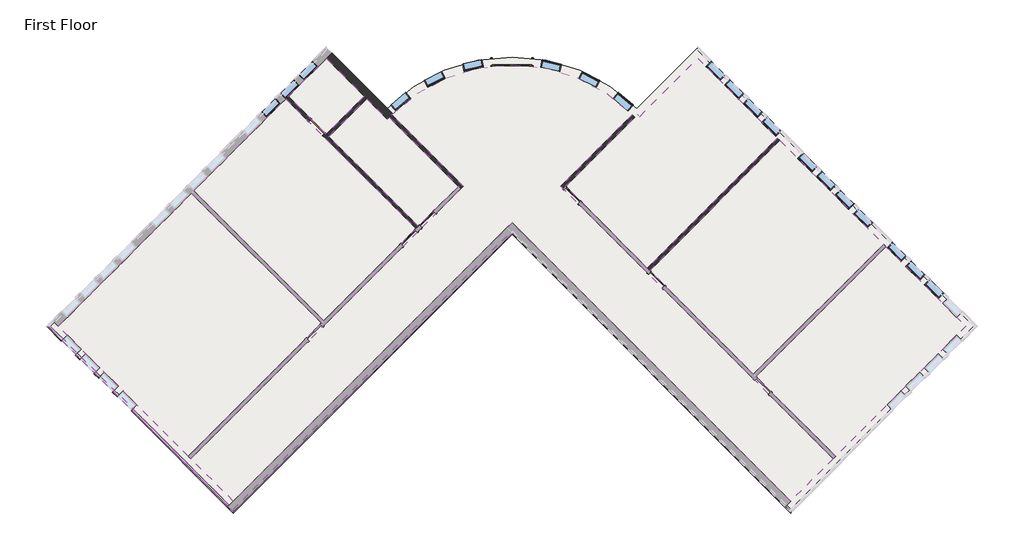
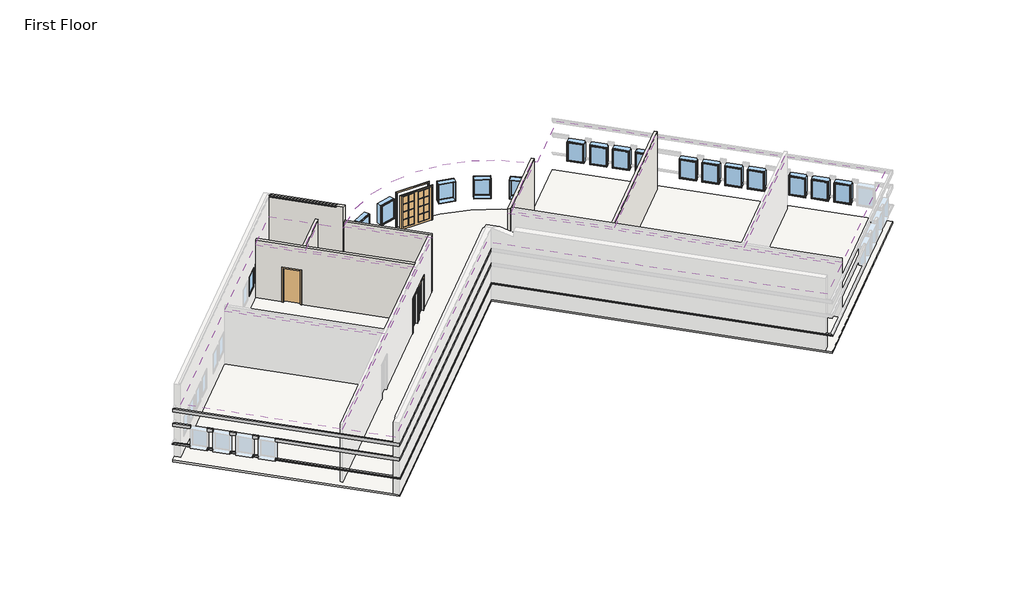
# One storey, part 2 of 3: 20 windows, 8 coverings, 7 proxies, 6 doors, 6 walls, 1 slab.
"""IFC4 building model written with IfcOpenShell, lengths in millimetres."""

from ifc_helpers import new_model, si_unit, point, frame, frame_2d, origin, origin_with_axes, place, context, project, spatial, polyline, circle_curve, ellipse_curve, trimmed, segment, composite_curve, outline, extrude, faceted_brep, transform, mapped, element, save
from ifc_brep_helpers import plane_surface, cylinder_surface, revolved_surface, advanced_brep
from components import door_0a477ef8, door_f9494b7c, door_b81abb0e, door_5f5b55da, window_15c49d37, window_0e2fc6ce

model = new_model("IFC4")

# Units and contexts
model_context = context("Model", 3, world=origin())
ifc_project = project(units=[si_unit("LENGTHUNIT", "METRE", prefix="MILLI")], contexts=[model_context])

# Site, building, storey
site = spatial("IfcSite", under=ifc_project)
building = spatial("IfcBuilding", under=site)
storey = spatial("IfcBuildingStorey", under=building, Name="First Floor", Elevation=0.0)

# Proxies
placement = place(None, origin())
element("IfcBuildingElementProxy", 1, Name="Wall Sweeps", at=placement, inside=storey, context=model_context, shape_type="Brep", body=[
    faceted_brep([(10063.54045, -9848.8216726, 1085.85), (10063.54045, -9979.0353863, 1085.85), (10063.54045, -10028.426795, 1041.4), (10063.54045, -10028.426795, 1016.0), (10063.54045, -9848.8216726, 1016.0), (-2868.0283643, 3082.7471418, 1085.85), (-2868.0283643, 3082.7471418, 1016.0), (-2868.0283643, 2903.1420194, 1016.0), (-2868.0283643, 2903.1420194, 1041.4), (-2868.0283643, 2952.533428, 1085.85)], [[[0, 1, 2, 3, 4]], [[5, 6, 7, 8, 9]], [[1, 0, 5, 9]], [[2, 1, 9, 8]], [[3, 2, 8, 7]], [[4, 3, 7, 6]], [[0, 4, 6, 5]]]),
])
element("IfcBuildingElementProxy", 2, Name="Wall Sweeps", at=placement, inside=storey, context=model_context, shape_type="Brep", body=[
    faceted_brep([(-2868.0283643, 3082.7471418, 1085.85), (-2868.0283643, 2952.533428, 1085.85), (-2868.0283643, 2903.1420194, 1041.4), (-2868.0283643, 2903.1420194, 1016.0), (-2868.0283643, 3082.7471418, 1016.0), (-15799.5971786, -9848.8216726, 1085.85), (-15799.5971786, -9848.8216726, 1016.0), (-15799.5971786, -10028.426795, 1016.0), (-15799.5971786, -10028.426795, 1041.4), (-15799.5971786, -9979.0353863, 1085.85)], [[[0, 1, 2, 3, 4]], [[5, 6, 7, 8, 9]], [[1, 0, 5, 9]], [[2, 1, 9, 8]], [[3, 2, 8, 7]], [[4, 3, 7, 6]], [[0, 4, 6, 5]]]),
])
element("IfcBuildingElementProxy", 3, Name="Wall Sweeps", at=placement, inside=storey, context=model_context, shape_type="SweptSolid", body=[
    extrude(outline(polyline([(-2868.0283643, 3082.7471418), (-2868.0283643, 2952.533428), (-15799.5971786, -9979.0353863), (-15799.5971786, -9848.8216726), (-2868.0283643, 3082.7471418)])), frame((0.0, 0.0, 2133.6), z_axis=(0.0, 0.0, 1.0), x_axis=(1.0, 0.0, 0.0)), (0.0, 0.0, 1.0), 203.2),
])
element("IfcBuildingElementProxy", 4, Name="Wall Sweeps", at=placement, inside=storey, context=model_context, shape_type="SweptSolid", body=[
    extrude(outline(polyline([(-2868.0283643, 3082.7471418), (-2868.0283643, 2952.533428), (-15799.5971786, -9979.0353863), (-15799.5971786, -9848.8216726), (-2868.0283643, 3082.7471418)])), frame((0.0, 0.0, 3048.0), z_axis=(0.0, 0.0, 1.0), x_axis=(1.0, 0.0, 0.0)), (0.0, 0.0, 1.0), 203.2),
])
element("IfcBuildingElementProxy", 5, Name="Wall Sweeps", at=placement, inside=storey, context=model_context, shape_type="Brep", body=[
    faceted_brep([(-15799.5971786, -9848.8216726, 1085.85), (-15799.5971786, -9979.0353863, 1085.85), (-15799.5971786, -10028.426795, 1041.4), (-15799.5971786, -10028.426795, 1016.0), (-15799.5971786, -9848.8216726, 1016.0), (-20459.2275735, -5189.1912777, 1085.85), (-20459.2275735, -5189.1912777, 1016.0), (-20524.3344303, -5254.2981346, 1016.0), (-20549.0301347, -5278.993839, 1016.0), (-20549.0301347, -5278.993839, 1041.4), (-20524.3344303, -5254.2981346, 1085.85)], [[[0, 1, 2, 3, 4]], [[5, 6, 7, 8, 9, 10]], [[1, 0, 5, 10]], [[2, 1, 10, 9]], [[3, 2, 9, 8]], [[4, 3, 8, 7, 6]], [[0, 4, 6, 5]]]),
    faceted_brep([(-21105.8060142, -4542.612837, 1085.85), (-21170.9128711, -4607.7196939, 1085.85), (-21195.6085754, -4632.4153982, 1041.4), (-21195.6085754, -4632.4153982, 1016.0), (-21170.9128711, -4607.7196939, 1016.0), (-21105.8060142, -4542.612837, 1016.0), (-21321.3321611, -4327.0866901, 1085.85), (-21321.3321611, -4327.0866901, 1016.0), (-21386.439018, -4392.193547, 1016.0), (-21411.1347223, -4416.8892513, 1016.0), (-21411.1347223, -4416.8892513, 1041.4), (-21386.439018, -4392.193547, 1085.85)], [[[0, 1, 2, 3, 4, 5]], [[6, 7, 8, 9, 10, 11]], [[1, 0, 6, 11]], [[2, 1, 11, 10]], [[3, 2, 10, 9]], [[5, 4, 3, 9, 8, 7]], [[0, 5, 7, 6]]]),
    faceted_brep([(-21967.9106018, -3680.5082494, 1085.85), (-22033.0174587, -3745.6151063, 1085.85), (-22057.713163, -3770.3108106, 1041.4), (-22057.713163, -3770.3108106, 1016.0), (-22033.0174587, -3745.6151063, 1016.0), (-21967.9106018, -3680.5082494, 1016.0), (-22183.4367487, -3464.9821025, 1085.85), (-22183.4367487, -3464.9821025, 1016.0), (-22248.5436056, -3530.0889594, 1016.0), (-22273.2393099, -3554.7846637, 1016.0), (-22273.2393099, -3554.7846637, 1041.4), (-22248.5436056, -3530.0889594, 1085.85)], [[[0, 1, 2, 3, 4, 5]], [[6, 7, 8, 9, 10, 11]], [[1, 0, 6, 11]], [[2, 1, 11, 10]], [[3, 2, 10, 9]], [[5, 4, 3, 9, 8, 7]], [[0, 5, 7, 6]]]),
    faceted_brep([(-22830.0151894, -2818.4036618, 1085.85), (-22895.1220463, -2883.5105187, 1085.85), (-22919.8177506, -2908.206223, 1041.4), (-22919.8177506, -2908.206223, 1016.0), (-22895.1220463, -2883.5105187, 1016.0), (-22830.0151894, -2818.4036618, 1016.0), (-23045.5413363, -2602.8775149, 1085.85), (-23045.5413363, -2602.8775149, 1016.0), (-23110.6481932, -2667.9843718, 1016.0), (-23135.3438975, -2692.6800761, 1016.0), (-23135.3438975, -2692.6800761, 1041.4), (-23110.6481932, -2667.9843718, 1085.85)], [[[0, 1, 2, 3, 4, 5]], [[6, 7, 8, 9, 10, 11]], [[1, 0, 6, 11]], [[2, 1, 11, 10]], [[3, 2, 10, 9]], [[5, 4, 3, 9, 8, 7]], [[0, 5, 7, 6]]]),
    faceted_brep([(-23692.119777, -1956.2990742, 1085.85), (-23757.2266339, -2021.405931, 1085.85), (-23781.9223383, -2046.1016354, 1041.4), (-23781.9223383, -2046.1016354, 1016.0), (-23757.2266339, -2021.405931, 1016.0), (-23692.119777, -1956.2990742, 1016.0), (-24290.4293411, -1357.9895101, 1085.85), (-24290.4293411, -1357.9895101, 1016.0), (-24470.0344635, -1357.9895101, 1016.0), (-24470.0344635, -1357.9895101, 1041.4), (-24420.6430549, -1357.9895101, 1085.85)], [[[0, 1, 2, 3, 4, 5]], [[6, 7, 8, 9, 10]], [[1, 0, 6, 10]], [[2, 1, 10, 9]], [[3, 2, 9, 8]], [[5, 4, 3, 8, 7]], [[0, 5, 7, 6]]]),
])
element("IfcBuildingElementProxy", 6, Name="Wall Sweeps", at=placement, inside=storey, context=model_context, shape_type="Brep", body=[
    faceted_brep([(-15799.5971786, -9979.0353863, 2336.8), (-15799.5971786, -9979.0353863, 2133.6), (-15799.5971786, -9848.8216726, 2133.6), (-15799.5971786, -9848.8216726, 2336.8), (-20524.3344303, -5254.2981346, 2336.8), (-20459.2275735, -5189.1912777, 2336.8), (-20459.2275735, -5189.1912777, 2133.6), (-20524.3344303, -5254.2981346, 2133.6), (-16048.799286, -9729.833279, 2336.8), (-16048.799286, -9729.833279, 2133.6)], [[[0, 1, 2, 3]], [[4, 5, 6, 7]], [[1, 0, 8, 4, 7, 9]], [[2, 1, 9, 7, 6]], [[3, 2, 6, 5]], [[0, 3, 5, 4, 8]]]),
    faceted_brep([(-21170.9128711, -4607.7196939, 2336.8), (-21170.9128711, -4607.7196939, 2133.6), (-21105.8060142, -4542.612837, 2133.6), (-21105.8060142, -4542.612837, 2336.8), (-21386.439018, -4392.193547, 2336.8), (-21321.3321611, -4327.0866901, 2336.8), (-21321.3321611, -4327.0866901, 2133.6), (-21386.439018, -4392.193547, 2133.6)], [[[0, 1, 2, 3]], [[4, 5, 6, 7]], [[1, 0, 4, 7]], [[2, 1, 7, 6]], [[3, 2, 6, 5]], [[0, 3, 5, 4]]]),
    faceted_brep([(-22033.0174587, -3745.6151063, 2336.8), (-22033.0174587, -3745.6151063, 2133.6), (-21967.9106018, -3680.5082494, 2133.6), (-21967.9106018, -3680.5082494, 2336.8), (-22248.5436056, -3530.0889594, 2336.8), (-22183.4367487, -3464.9821025, 2336.8), (-22183.4367487, -3464.9821025, 2133.6), (-22248.5436056, -3530.0889594, 2133.6)], [[[0, 1, 2, 3]], [[4, 5, 6, 7]], [[1, 0, 4, 7]], [[2, 1, 7, 6]], [[3, 2, 6, 5]], [[0, 3, 5, 4]]]),
    faceted_brep([(-22895.1220463, -2883.5105187, 2336.8), (-22895.1220463, -2883.5105187, 2133.6), (-22830.0151894, -2818.4036618, 2133.6), (-22830.0151894, -2818.4036618, 2336.8), (-23110.6481932, -2667.9843718, 2336.8), (-23045.5413363, -2602.8775149, 2336.8), (-23045.5413363, -2602.8775149, 2133.6), (-23110.6481932, -2667.9843718, 2133.6)], [[[0, 1, 2, 3]], [[4, 5, 6, 7]], [[1, 0, 4, 7]], [[2, 1, 7, 6]], [[3, 2, 6, 5]], [[0, 3, 5, 4]]]),
    faceted_brep([(-23757.2266339, -2021.405931, 2336.8), (-23757.2266339, -2021.405931, 2133.6), (-23692.119777, -1956.2990742, 2133.6), (-23692.119777, -1956.2990742, 2336.8), (-24420.6430549, -1357.9895101, 2336.8), (-24290.4293411, -1357.9895101, 2336.8), (-24290.4293411, -1357.9895101, 2133.6), (-24420.6430549, -1357.9895101, 2133.6)], [[[0, 1, 2, 3]], [[4, 5, 6, 7]], [[1, 0, 4, 7]], [[2, 1, 7, 6]], [[3, 2, 6, 5]], [[0, 3, 5, 4]]]),
])
element("IfcBuildingElementProxy", 7, Name="Wall Sweeps", at=placement, inside=storey, context=model_context, shape_type="Brep", body=[
    faceted_brep([(-15799.5971786, -9979.0353863, 3251.2), (-15799.5971786, -9979.0353863, 3048.0), (-15799.5971786, -9848.8216726, 3048.0), (-15799.5971786, -9848.8216726, 3251.2), (-24420.6430549, -1357.9895101, 3251.2), (-24290.4293411, -1357.9895101, 3251.2), (-24290.4293411, -1357.9895101, 3048.0), (-24420.6430549, -1357.9895101, 3048.0), (-16048.799286, -9729.833279, 3251.2), (-16048.799286, -9729.833279, 3048.0)], [[[0, 1, 2, 3]], [[4, 5, 6, 7]], [[1, 0, 8, 4, 7, 9]], [[2, 1, 9, 7, 6]], [[3, 2, 6, 5]], [[0, 3, 5, 4, 8]]]),
])

# Coverings
element("IfcCovering", 8, ObjectType="2' x 2' ACT System", at=placement, inside=storey, context=model_context, shape_type="SweptSolid", body=[
    extrude(outline(polyline([(-11706.7276692, -1216.4326939), (-17885.2616628, -7394.9666875), (-23922.2388402, -1357.9895101), (-17743.7048466, 4820.5444835), (-11706.7276692, -1216.4326939)])), frame((0.0, 0.0, 3352.8), z_axis=(0.0, 0.0, 1.0), x_axis=(1.0, 0.0, 0.0)), (0.0, 0.0, 1.0), 57.15),
])
element("IfcCovering", 9, ObjectType="2' x 2' ACT System", at=placement, inside=storey, context=model_context, shape_type="SweptSolid", body=[
    extrude(outline(polyline([(-17633.6967091, 4930.552621), (-13359.2125777, 9205.0367523), (-7322.2354004, 3168.0595749), (-11596.7195317, -1106.4245564), (-17633.6967091, 4930.552621)])), frame((0.0, 0.0, 3352.8), z_axis=(0.0, 0.0, 1.0), x_axis=(1.0, 0.0, 0.0)), (0.0, 0.0, 1.0), 57.15),
])
element("IfcCovering", 10, ObjectType="2' x 2' ACT System", at=placement, inside=storey, context=model_context, shape_type="SweptSolid", body=[
    extrude(outline(polyline([(-13249.2044403, 9315.0448898), (-11489.0742405, 11075.1750895), (-9728.9440408, 9315.0448898), (-11489.0742405, 7554.9146901), (-13249.2044403, 9315.0448898)])), frame((0.0, 0.0, 3352.8), z_axis=(0.0, 0.0, 1.0), x_axis=(1.0, 0.0, 0.0)), (0.0, 0.0, 1.0), 57.15),
])
element("IfcCovering", 11, ObjectType="2' x 2' ACT System", at=placement, inside=storey, context=model_context, shape_type="SweptSolid", body=[
    extrude(outline(composite_curve([segment(polyline([(-11379.066103, 7444.9065526), (-9618.9359033, 9205.0367523), (-8658.0122729, 8244.1131219)]), True, "CONTINUOUS"), segment(trimmed(circle_curve(frame_2d((-2868.0283643, 2903.1420194)), 7877.175), [point((-8658.0122729, 8244.1131219))], [point((-8557.7157352, 8350.8336041))], False, "CARTESIAN"), True, "CONTINUOUS"), segment(polyline([(-8557.7157352, 8350.8336041), (-5348.5885532, 5141.7064221), (-7212.2272629, 3278.0677124), (-11379.066103, 7444.9065526)]), True, "CONTINUOUS")], self_intersect=False)), frame((0.0, 0.0, 3352.8), z_axis=(0.0, 0.0, 1.0), x_axis=(1.0, 0.0, 0.0)), (0.0, 0.0, 1.0), 57.15),
])
element("IfcCovering", 12, ObjectType="2' x 2' ACT System", at=placement, inside=storey, context=model_context, shape_type="SweptSolid", body=[
    extrude(outline(composite_curve([segment(polyline([(-607.4844504, 5141.7064221), (12039.1967967, -7504.974825), (10063.54045, -9480.6311716), (-2868.0283643, 3450.9376427), (-15799.5971786, -9480.6311716), (-17775.2535253, -7504.974825), (-5128.5722782, 5141.7064221), (-8449.0111375, 8462.1452813)]), True, "CONTINUOUS"), segment(trimmed(circle_curve(frame_2d((-2868.0283643, 2903.1420194)), 7877.175), [point((-8449.0111375, 8462.1452813))], [point((2712.9544089, 8462.1452813))], False, "CARTESIAN"), True, "CONTINUOUS"), segment(polyline([(2712.9544089, 8462.1452813), (-607.4844504, 5141.7064221)]), True, "CONTINUOUS")], self_intersect=False)), frame((0.0, 0.0, 3352.8), z_axis=(0.0, 0.0, 1.0), x_axis=(1.0, 0.0, 0.0)), (0.0, 0.0, 1.0), 57.15),
])
element("IfcCovering", 13, ObjectType="2' x 2' ACT System", at=placement, inside=storey, context=model_context, shape_type="SweptSolid", body=[
    extrude(outline(polyline([(2947.192033, 8476.3666305), (3050.2065213, 8372.3640989), (5753.0175119, 11075.1750895), (9452.8830338, 7375.3095676), (3415.9058564, 1338.3323903), (-387.4681754, 5141.7064221), (2947.192033, 8476.3666305)])), frame((0.0, 0.0, 3352.8), z_axis=(0.0, 0.0, 1.0), x_axis=(1.0, 0.0, 0.0)), (0.0, 0.0, 1.0), 57.15),
])
element("IfcCovering", 14, ObjectType="2' x 2' ACT System", at=placement, inside=storey, context=model_context, shape_type="SweptSolid", body=[
    extrude(outline(polyline([(3525.9139939, 1228.3242528), (9562.8911713, 7265.3014302), (14376.3084522, 2451.8841493), (8339.3312748, -3585.0930281), (3525.9139939, 1228.3242528)])), frame((0.0, 0.0, 3352.8), z_axis=(0.0, 0.0, 1.0), x_axis=(1.0, 0.0, 0.0)), (0.0, 0.0, 1.0), 57.15),
])
element("IfcCovering", 15, ObjectType="2' x 2' ACT System", at=placement, inside=storey, context=model_context, shape_type="SweptSolid", body=[
    extrude(outline(polyline([(8449.3394123, -3695.1011656), (14486.3165897, 2341.8760118), (18186.1821115, -1357.9895101), (12149.2049342, -7394.9666875), (8449.3394123, -3695.1011656)])), frame((0.0, 0.0, 3352.8), z_axis=(0.0, 0.0, 1.0), x_axis=(1.0, 0.0, 0.0)), (0.0, 0.0, 1.0), 57.15),
])

# Doors
door_shape = door_0a477ef8(model_context)
element("IfcDoor", 16, ObjectType="Double-Glass 2 : 72\" x 84\"", at=placement, inside=storey, context=model_context, shape_type="MappedRepresentation", body=[
    mapped(door_shape, transform((-2868.7603243, 10905.5717204, 0.0), x_axis=(-0.9999999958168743, -9.146721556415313e-05, 0.0), y_axis=(9.146721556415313e-05, -0.9999999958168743, 0.0), z_axis=(0.0, 0.0, 1.0))),
])
door_2_shape = door_f9494b7c(model_context)
element("IfcDoor", 17, ObjectType="Single-Flush : 36\" x 84\"", at=placement, inside=storey, context=model_context, shape_type="MappedRepresentation", body=[
    mapped(door_2_shape, transform((-11920.1265343, 7875.9588464, 0.0), x_axis=(0.7071067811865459, -0.7071067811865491, 0.0), y_axis=(0.7071067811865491, 0.7071067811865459, 0.0), z_axis=(0.0, 0.0, 1.0))),
])
door_3_shape = door_b81abb0e(model_context)
element("IfcDoor", 18, ObjectType="Single-Glass 1 : 36\" x 84\"", at=placement, inside=storey, context=model_context, shape_type="MappedRepresentation", body=[
    mapped(door_3_shape, transform((-7643.2795567, 2737.0072811, 0.0), x_axis=(0.7071067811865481, 0.7071067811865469, 0.0), y_axis=(-0.7071067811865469, 0.7071067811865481, 0.0), z_axis=(0.0, 0.0, 1.0))),
])
door_4_shape = door_5f5b55da(model_context)
element("IfcDoor", 19, ObjectType="Single-Glass 1 : 36\" x 84\"", at=placement, inside=storey, context=model_context, shape_type="MappedRepresentation", body=[
    mapped(door_4_shape, transform((-6781.1749691, 3599.1118687, 0.0), x_axis=(-0.7071067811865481, -0.7071067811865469, 0.0), y_axis=(0.7071067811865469, -0.7071067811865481, 0.0), z_axis=(0.0, 0.0, 1.0))),
])
element("IfcDoor", 20, ObjectType="Single-Glass 1 : 36\" x 84\"", at=placement, inside=storey, context=model_context, shape_type="MappedRepresentation", body=[
    mapped(door_4_shape, transform((-66.4240191, 4710.6541283, 0.0), x_axis=(-0.7071067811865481, 0.7071067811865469, 0.0), y_axis=(-0.7071067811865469, -0.7071067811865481, 0.0), z_axis=(0.0, 0.0, 1.0))),
])
element("IfcDoor", 21, ObjectType="Single-Glass 1 : 36\" x 84\"", at=placement, inside=storey, context=model_context, shape_type="MappedRepresentation", body=[
    mapped(door_4_shape, transform((3846.9581502, 797.271959, 0.0), x_axis=(-0.7071067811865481, 0.7071067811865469, 0.0), y_axis=(-0.7071067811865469, -0.7071067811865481, 0.0), z_axis=(0.0, 0.0, 1.0))),
])

# Slab
element("IfcSlab", 22, ObjectType="4\" Concrete Slab", at=placement, inside=storey, context=model_context, shape_type="SweptSolid", body=[
    extrude(outline(composite_curve([segment(polyline([(2926.4294954, 8746.9912878), (5753.0175119, 11573.5793042), (18684.5863263, -1357.9895101), (10063.54045, -9979.0353863), (-2868.0283643, 2952.533428), (-15799.5971786, -9979.0353863), (-24420.6430549, -1357.9895101), (-11489.0742405, 11573.5793042), (-8662.486224, 8746.9912878)]), True, "CONTINUOUS"), segment(trimmed(circle_curve(frame_2d((-2868.0283643, 2903.1420194)), 8229.6), [point((-8662.486224, 8746.9912878))], [point((2926.4294954, 8746.9912878))], False, "CARTESIAN"), True, "CONTINUOUS")], self_intersect=False)), frame((0.0, 0.0, -101.6), z_axis=(0.0, 0.0, 1.0), x_axis=(1.0, 0.0, 0.0)), (0.0, 0.0, 1.0), 101.6),
])

# Walls
element("IfcWall", 23, ObjectType="Exterior - Split Face and CMU on Mtl. Stud", at=placement, inside=storey, context=model_context, shape_type="AdvancedBrep", body=[
    advanced_brep(
    [(-11489.0742405, 11075.1750895, 0.0), (-9728.9440408, 9315.0448898, 0.0), (-9618.9359033, 9205.0367523, 0.0), (-8658.0122729, 8244.1131219, 0.0), (-8658.0122729, 8244.1131219, 4689.475), (-11489.0742405, 11075.1750895, 4689.475), (-11489.0742405, 11075.1750895, 4639.3965909), (-8911.6883314, 8497.7891804, 4639.3965909), (-8911.6883314, 8497.7891804, 4572.0), (-11489.0742405, 11075.1750895, 4572.0), (-8413.2817722, 8497.7868359, 4572.0), (-8413.2817722, 8497.7868359, 0.0), (-8662.486224, 8746.9912878, 0.0), (-11239.8721332, 11324.3771969, 0.0), (-11239.8721332, 11324.3771969, 1016.0), (-8662.486224, 8746.9912878, 1016.0), (-8597.3787742, 8681.8838379, 1016.0), (-8597.3787742, 8681.8838379, 1085.85), (-8662.486224, 8746.9912878, 1085.85), (-11239.8721332, 11324.3771969, 1085.85), (-11239.8721332, 11324.3771969, 2133.6), (-8662.486224, 8746.9912878, 2133.6), (-8597.3787742, 8681.8838379, 2133.6), (-8597.3787742, 8681.8838379, 2336.8), (-8662.486224, 8746.9912878, 2336.8), (-11239.8721332, 11324.3771969, 2336.8), (-11239.8721332, 11324.3771969, 3048.0), (-8662.486224, 8746.9912878, 3048.0), (-8597.3787742, 8681.8838379, 3048.0), (-8597.3787742, 8681.8838379, 3251.2), (-8662.486224, 8746.9912878, 3251.2), (-11239.8721332, 11324.3771969, 3251.2), (-11239.8721332, 11324.3771969, 4572.0), (-8662.486224, 8746.9912878, 4572.0), (-8478.2967797, 8432.5881297, 0.0), (-11304.9789901, 11259.27034, 0.0), (-11304.9789901, 11259.27034, 3251.2), (-11304.9789901, 11259.27034, 3048.0), (-11304.9789901, 11259.27034, 2336.8), (-11304.9789901, 11259.27034, 2133.6), (-11304.9789901, 11259.27034, 1085.85), (-11304.9789901, 11259.27034, 1016.0), (-11413.683542, 11150.5657881, 4653.9354839), (-8836.2976328, 8573.179879, 4653.9354839), (-8662.3967205, 8616.6880705, 1085.85), (-8662.3967205, 8616.6880705, 1016.0), (-8662.3967205, 8616.6880705, 2336.8), (-8662.3967205, 8616.6880705, 2133.6), (-8662.3967205, 8616.6880705, 3251.2), (-8662.3967205, 8616.6880705, 3048.0)],
    [
        (0, 1),
        (1, 2),
        (2, 3),
        (3, 4),
        (4, 5),
        (5, 6),
        (6, 7),
        (7, 8),
        (8, 9),
        (9, 0),
        (10, 11),
        (11, 12),
        (12, 13),
        (13, 14),
        (14, 15),
        (15, 16),
        (16, 17),
        (17, 18),
        (18, 19),
        (19, 20),
        (20, 21),
        (21, 22),
        (22, 23),
        (23, 24),
        (24, 25),
        (25, 26),
        (26, 27),
        (27, 28),
        (28, 29),
        (29, 30),
        (30, 31),
        (31, 32),
        (32, 33),
        (33, 10),
        (3, 34, circle_curve(frame((-2868.0283643, 2903.1420194, 0.0), z_axis=(0.0, 0.0, -1.0), x_axis=(1.0, 0.0, 0.0)), 7877.175)),
        (34, 11, circle_curve(frame((-2868.0283643, 2903.1420194, 0.0), z_axis=(0.0, 0.0, -1.0), x_axis=(1.0, 0.0, 0.0)), 7877.175)),
        (10, 4, ellipse_curve(frame((-2868.0283643, 2903.1420194, 4583.6416667), z_axis=(0.2236067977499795, 0.22360679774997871, 0.9486832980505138), x_axis=(0.6708203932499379, 0.6708203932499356, -0.31622776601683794)), 8303.2715092, 7877.175)),
        (35, 0),
        (9, 32),
        (31, 36),
        (36, 37),
        (37, 26),
        (25, 38),
        (38, 39),
        (39, 20),
        (19, 40),
        (40, 41),
        (41, 14),
        (13, 35),
        (5, 42),
        (42, 6),
        (33, 43),
        (43, 42),
        (35, 34),
        (44, 45),
        (45, 41),
        (40, 44),
        (17, 44, circle_curve(frame((-2868.0283643, 2903.1420194, 1085.85), z_axis=(0.0, 0.0, 1.0), x_axis=(-0.7040995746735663, 0.7101012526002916, 0.0)), 8137.525)),
        (45, 16, circle_curve(frame((-2868.0283643, 2903.1420194, 1016.0), z_axis=(0.0, 0.0, -1.0), x_axis=(-0.7040995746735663, 0.7101012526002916, 0.0)), 8137.525)),
        (46, 47),
        (47, 39),
        (38, 46),
        (47, 22, circle_curve(frame((-2868.0283643, 2903.1420194, 2133.6), z_axis=(0.0, 0.0, -1.0), x_axis=(-0.7120553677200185, 0.70212331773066, 0.0)), 8137.525)),
        (46, 23, circle_curve(frame((-2868.0283643, 2903.1420194, 2336.8), z_axis=(0.0, 0.0, -1.0), x_axis=(-0.7120553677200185, 0.70212331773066, 0.0)), 8137.525)),
        (48, 49),
        (49, 37),
        (36, 48),
        (49, 28, circle_curve(frame((-2868.0283643, 2903.1420194, 3048.0), z_axis=(0.0, 0.0, -1.0), x_axis=(-0.7120553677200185, 0.70212331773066, 0.0)), 8137.525)),
        (48, 29, circle_curve(frame((-2868.0283643, 2903.1420194, 3251.2), z_axis=(0.0, 0.0, -1.0), x_axis=(-0.7120553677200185, 0.70212331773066, 0.0)), 8137.525)),
        (8, 33),
        (7, 43),
    ],
    [
        plane_surface(frame((-11738.2763479, 11324.3771969, 0.0), z_axis=(-0.7071067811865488, -0.7071067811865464, 0.0), x_axis=(0.7071067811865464, -0.7071067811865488, 0.0))),
        plane_surface(frame((-11489.0742405, 11573.5793042, 0.0), z_axis=(0.7071067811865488, 0.7071067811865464, 0.0), x_axis=(-0.7071067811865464, 0.7071067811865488, 0.0))),
        revolved_surface(polyline([(5009.146635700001, 2903.1420194, 0.0), (5009.146635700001, 2903.1420194, 7209.366666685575)]), (-2868.0283643, 2903.1420194, 0.0), (0.0, 0.0, -1.0)),
        plane_surface(frame((-24171.4409475, -1607.1916175, 0.0), z_axis=(-0.7071067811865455, 0.7071067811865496, 0.0), x_axis=(0.7071067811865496, 0.7071067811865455, 0.0))),
        plane_surface(frame((-1143.8191891, 2952.533428, 4165.6), z_axis=(0.2236067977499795, 0.22360679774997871, 0.9486832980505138), x_axis=(-0.7071067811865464, 0.7071067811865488, 0.0))),
        plane_surface(frame((-11613.6752942, 11199.7761432, 0.0), z_axis=(0.0, 0.0, -1.0000000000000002), x_axis=(0.7071067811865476, 0.7071067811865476, 0.0))),
        plane_surface(frame((0.0, 0.0, 0.0), z_axis=(0.0, 0.0, -1.0), x_axis=(1.0, 0.0, 0.0))),
        plane_surface(frame((-11489.0742405, 11443.3655905, 1016.0), z_axis=(0.7071067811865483, 0.7071067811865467, 0.0), x_axis=(0.7071067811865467, -0.7071067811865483, 0.0))),
        plane_surface(frame((-2868.0283643, 2903.1420194, 1085.85), z_axis=(0.0, 0.0, -1.0), x_axis=(-0.7040995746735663, 0.7101012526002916, 0.0))),
        plane_surface(frame((-2868.0283643, 2903.1420194, 1016.0), z_axis=(0.0, 0.0, 1.0), x_axis=(-0.7040995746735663, 0.7101012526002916, 0.0))),
        cylinder_surface(frame((-2868.0283643, 2903.1420194, 1016.0), z_axis=(0.0, 0.0, -1.0), x_axis=(-0.7040995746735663, 0.7101012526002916, 0.0)), 8137.525),
        plane_surface(frame((-11489.0742405, 11443.3655905, 2133.6), z_axis=(0.7071067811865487, 0.7071067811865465, 0.0), x_axis=(0.7071067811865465, -0.7071067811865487, 0.0))),
        plane_surface(frame((-2868.0283643, 2903.1420194, 2133.6), z_axis=(0.0, 0.0, 1.0), x_axis=(-0.7120553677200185, 0.70212331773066, 0.0))),
        cylinder_surface(frame((-2868.0283643, 2903.1420194, 2133.6), z_axis=(0.0, 0.0, -1.0), x_axis=(-0.7120553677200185, 0.70212331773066, 0.0)), 8137.525),
        plane_surface(frame((-2868.0283643, 2903.1420194, 2336.8), z_axis=(0.0, 0.0, -1.0), x_axis=(-0.7120553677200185, 0.70212331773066, 0.0))),
        plane_surface(frame((-11489.0742405, 11443.3655905, 3048.0), z_axis=(0.7071067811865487, 0.7071067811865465, 0.0), x_axis=(0.7071067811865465, -0.7071067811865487, 0.0))),
        plane_surface(frame((-2868.0283643, 2903.1420194, 3048.0), z_axis=(0.0, 0.0, 1.0), x_axis=(-0.7120553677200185, 0.70212331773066, 0.0))),
        cylinder_surface(frame((-2868.0283643, 2903.1420194, 3048.0), z_axis=(0.0, 0.0, -1.0), x_axis=(-0.7120553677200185, 0.70212331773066, 0.0)), 8137.525),
        plane_surface(frame((-2868.0283643, 2903.1420194, 3251.2), z_axis=(0.0, 0.0, -1.0), x_axis=(-0.7120553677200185, 0.70212331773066, 0.0))),
        plane_surface(frame((-24438.6035671, -1340.0289979, 4572.0), z_axis=(0.0, 0.0, 1.0), x_axis=(0.7071067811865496, 0.7071067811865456, 0.0))),
        plane_surface(frame((-8662.486224, 8746.9912878, 4185.7445793), z_axis=(-0.7071067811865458, 0.7071067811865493, 0.0), x_axis=(0.7071067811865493, 0.7071067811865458, 0.0))),
        plane_surface(frame((-11489.0742405, 11034.763937, 4635.5), z_axis=(0.09553946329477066, 0.09553946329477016, -0.9908301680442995), x_axis=(0.7071067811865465, -0.7071067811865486, 0.0))),
    ],
    [
        (0, [[1, 2, 3, 4, 5, 6, 7, 8, 9, 10]]),
        (1, [[11, 12, 13, 14, 15, 16, 17, 18, 19, 20, 21, 22, 23, 24, 25, 26, 27, 28, 29, 30, 31, 32, 33, 34]]),
        (2, [[-4, 35, 36, -11, 37]]),
        (3, [[38, -10, 39, -32, 40, 41, 42, -26, 43, 44, 45, -20, 46, 47, 48, -14, 49]]),
        (3, [[-6, 50, 51]]),
        (4, [[-5, -37, -34, 52, 53, -50]]),
        (5, [[-3, -2, -1, -38, 54, -35]]),
        (6, [[-49, -13, -12, -36, -54]]),
        (7, [[55, 56, -47, 57]]),
        (8, [[58, -57, -46, -19, -18]]),
        (9, [[-56, 59, -16, -15, -48]]),
        (10, [[-55, -58, -17, -59]]),
        (11, [[60, 61, -44, 62]]),
        (12, [[-61, 63, -22, -21, -45]]),
        (13, [[-60, 64, -23, -63]]),
        (14, [[-64, -62, -43, -25, -24]]),
        (15, [[65, 66, -41, 67]]),
        (16, [[-66, 68, -28, -27, -42]]),
        (17, [[-65, 69, -29, -68]]),
        (18, [[-69, -67, -40, -31, -30]]),
        (19, [[70, -33, -39, -9]]),
        (20, [[71, -52, -70, -8]]),
        (21, [[-71, -7, -51, -53]]),
    ],
),
])
element("IfcWall", 24, ObjectType="Interior - 6 1/8\" Partition (2-hr)", at=placement, inside=storey, context=model_context, shape_type="Brep", body=[
    faceted_brep([(-7212.2272629, 3278.0677124, 0.0), (-11379.066103, 7444.9065526, 0.0), (-11489.0742405, 7554.9146901, 0.0), (-11541.8332452, 7607.6736948, 0.0), (-11541.8332452, 7607.6736948, 2133.6), (-12188.411686, 8254.2521355, 2133.6), (-12188.411686, 8254.2521355, 0.0), (-13249.2044403, 9315.0448898, 0.0), (-13249.2044403, 9315.0448898, 3657.6), (-11489.0742405, 7554.9146901, 3657.6), (-11379.066103, 7444.9065526, 3657.6), (-7212.2272629, 3278.0677124, 3657.6), (-11651.8413827, 7497.6655573, 2133.6), (-11651.8413827, 7497.6655573, 0.0), (-7322.2354004, 3168.0595749, 0.0), (-7322.2354004, 3168.0595749, 3657.6), (-13359.2125777, 9205.0367523, 3657.6), (-13359.2125777, 9205.0367523, 0.0), (-12298.4198234, 8144.243998, 0.0), (-12298.4198234, 8144.243998, 2133.6)], [[[0, 1, 2, 3, 4, 5, 6, 7, 8, 9, 10, 11]], [[12, 13, 14, 15, 16, 17, 18, 19]], [[14, 13, 3, 2, 1, 0]], [[18, 17, 7, 6]], [[11, 10, 9, 8, 16, 15]], [[8, 7, 17, 16]], [[0, 11, 15, 14]], [[4, 3, 13, 12]], [[5, 4, 12, 19]], [[6, 5, 19, 18]]]),
])
element("IfcWall", 25, ObjectType="Interior - 6 1/8\" Partition (2-hr)", at=placement, inside=storey, context=model_context, shape_type="AdvancedBrep", body=[
    advanced_brep(
    [(-5128.5722782, 5141.7064221, 0.0), (-8449.0111375, 8462.1452813, 0.0), (-8449.0111375, 8462.1452813, 3657.6), (-5128.5722782, 5141.7064221, 3657.6), (-5238.5804157, 5031.6982846, 0.0), (-5238.5804157, 5031.6982846, 3657.6), (-5348.5885532, 5141.7064221, 3657.6), (-8557.7157352, 8350.8336041, 3657.6), (-8557.7157352, 8350.8336041, 0.0), (-5348.5885532, 5141.7064221, 0.0)],
    [
        (0, 1),
        (1, 2),
        (2, 3),
        (3, 0),
        (4, 5),
        (5, 6),
        (6, 7),
        (7, 8),
        (8, 9),
        (9, 4),
        (0, 4),
        (8, 1, circle_curve(frame((-2868.0283643, 2903.1420194, 0.0), z_axis=(0.0, 0.0, -1.0), x_axis=(1.0, 0.0, 0.0)), 7877.175)),
        (2, 7, circle_curve(frame((-2868.0283643, 2903.1420194, 3657.6), z_axis=(0.0, 0.0, 1.0), x_axis=(1.0, 0.0, 0.0)), 7877.175)),
        (5, 3),
    ],
    [
        plane_surface(frame((-5183.576347, 5196.7104908, 0.0), z_axis=(0.7071067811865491, 0.7071067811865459, 0.0), x_axis=(-0.7071067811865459, 0.7071067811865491, 0.0))),
        plane_surface(frame((-5293.5844845, 5086.7023533, 0.0), z_axis=(-0.7071067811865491, -0.7071067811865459, 0.0), x_axis=(0.7071067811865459, -0.7071067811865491, 0.0))),
        plane_surface(frame((-5183.576347, 5196.7104908, 0.0), z_axis=(0.0, 0.0, -1.0), x_axis=(-0.707106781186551, -0.707106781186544, 0.0))),
        plane_surface(frame((-8573.2406241, 8586.374768, 3657.6), z_axis=(0.0, 0.0, 1.0), x_axis=(-0.707106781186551, -0.707106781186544, 0.0))),
        plane_surface(frame((-17899.854579, -7629.5758786, 0.0), z_axis=(0.7071067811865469, -0.7071067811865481, 0.0), x_axis=(0.7071067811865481, 0.7071067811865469, 0.0))),
        cylinder_surface(frame((-2868.0283643, 2903.1420194, 0.0), z_axis=(0.0, 0.0, -1.0), x_axis=(1.0, 0.0, 0.0)), 7877.175),
    ],
    [
        (0, [[1, 2, 3, 4]]),
        (1, [[5, 6, 7, 8, 9, 10]]),
        (2, [[-1, 11, -10, -9, 12]]),
        (3, [[-3, 13, -7, -6, 14]]),
        (4, [[-4, -14, -5, -11]]),
        (5, [[-2, -12, -8, -13]]),
    ],
),
])
element("IfcWall", 26, ObjectType="Interior - 6 1/8\" Partition (2-hr)", at=placement, inside=storey, context=model_context, shape_type="SweptSolid", body=[
    extrude(outline(polyline([(-11489.0742405, 7554.9146901), (-9728.9440408, 9315.0448898), (-9618.9359033, 9205.0367523), (-11379.066103, 7444.9065526), (-11489.0742405, 7554.9146901)])), origin_with_axes(), (0.0, 0.0, 1.0), 3657.6),
])
element("IfcWall", 27, ObjectType="Interior - 6 1/8\" Partition (2-hr)", at=placement, inside=storey, context=model_context, shape_type="AdvancedBrep", body=[
    advanced_brep(
    [(-497.4763129, 5031.6982846, 0.0), (-387.4681754, 5141.7064221, 0.0), (2821.6590066, 8350.8336041, 0.0), (2821.6590066, 8350.8336041, 3657.6), (-387.4681754, 5141.7064221, 3657.6), (-497.4763129, 5031.6982846, 3657.6), (-607.4844504, 5141.7064221, 0.0), (-607.4844504, 5141.7064221, 3657.6), (2712.9544089, 8462.1452813, 3657.6), (2712.9544089, 8462.1452813, 0.0)],
    [
        (0, 1),
        (1, 2),
        (2, 3),
        (3, 4),
        (4, 5),
        (5, 0),
        (6, 7),
        (7, 8),
        (8, 9),
        (9, 6),
        (0, 6),
        (9, 2, circle_curve(frame((-2868.0283643, 2903.1420194, 0.0), z_axis=(0.0, 0.0, -1.0), x_axis=(1.0, 0.0, 0.0)), 7877.175)),
        (3, 8, circle_curve(frame((-2868.0283643, 2903.1420194, 3657.6), z_axis=(0.0, 0.0, 1.0), x_axis=(1.0, 0.0, 0.0)), 7877.175)),
        (7, 5),
    ],
    [
        plane_surface(frame((-442.4722441, 5086.7023533, 0.0), z_axis=(0.7071067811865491, -0.7071067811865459, 0.0), x_axis=(0.7071067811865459, 0.7071067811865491, 0.0))),
        plane_surface(frame((-552.4803816, 5196.7104908, 0.0), z_axis=(-0.7071067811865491, 0.7071067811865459, 0.0), x_axis=(-0.7071067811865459, -0.7071067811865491, 0.0))),
        plane_surface(frame((-442.4722441, 5086.7023533, 0.0), z_axis=(0.0, 0.0, -1.0), x_axis=(-0.707106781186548, 0.7071067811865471, 0.0))),
        plane_surface(frame((2947.192033, 8476.3666305, 3657.6), z_axis=(0.0, 0.0, 1.0000000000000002), x_axis=(-0.7071067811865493, 0.7071067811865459, 0.0))),
        plane_surface(frame((12163.7978503, -7629.5758786, 0.0), z_axis=(-0.7071067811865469, -0.7071067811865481, 0.0), x_axis=(0.7071067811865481, -0.7071067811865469, 0.0))),
        cylinder_surface(frame((-2868.0283643, 2903.1420194, 0.0), z_axis=(0.0, 0.0, -1.0), x_axis=(1.0, 0.0, 0.0)), 7877.175),
    ],
    [
        (0, [[1, 2, 3, 4, 5, 6]]),
        (1, [[7, 8, 9, 10]]),
        (2, [[-2, -1, 11, -10, 12]]),
        (3, [[-5, -4, 13, -8, 14]]),
        (4, [[-6, -14, -7, -11]]),
        (5, [[-3, -12, -9, -13]]),
    ],
),
])
element("IfcWall", 28, ObjectType="Interior - 6 1/8\" Partition (2-hr)", at=placement, inside=storey, context=model_context, shape_type="SweptSolid", body=[
    extrude(outline(polyline([(3415.9058564, 1338.3323903), (9452.8830338, 7375.3095676), (9562.8911713, 7265.3014302), (3525.9139939, 1228.3242528), (3415.9058564, 1338.3323903)])), origin_with_axes(), (0.0, 0.0, 1.0), 3657.6),
])

# Windows
window_shape = window_15c49d37(model_context)
element("IfcWindow", 29, ObjectType="Fixed : 36\" x 48\"", at=placement, inside=storey, context=model_context, shape_type="MappedRepresentation", body=[
    mapped(window_shape, transform((-8066.2237793, 9037.6928325, 0.0), x_axis=(-0.7659856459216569, -0.6428576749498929, 0.0), y_axis=(0.6428576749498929, -0.7659856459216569, 0.0), z_axis=(0.0, 0.0, 1.0))),
])
element("IfcWindow", 30, ObjectType="Fixed : 36\" x 48\"", at=placement, inside=storey, context=model_context, shape_type="MappedRepresentation", body=[
    mapped(window_shape, transform((-4714.6266038, 10728.998151, 0.0), x_axis=(-0.9743494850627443, -0.2250401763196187, 0.0), y_axis=(0.2250401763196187, -0.9743494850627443, 0.0), z_axis=(0.0, 0.0, 1.0))),
])
element("IfcWindow", 31, ObjectType="Fixed : 36\" x 48\"", at=placement, inside=storey, context=model_context, shape_type="MappedRepresentation", body=[
    mapped(window_shape, transform((-6490.5147795, 10081.6893252, 0.0), x_axis=(-0.8948935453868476, -0.4462796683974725, 0.0), y_axis=(0.4462796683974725, -0.8948935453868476, 0.0), z_axis=(0.0, 0.0, 1.0))),
])
element("IfcWindow", 32, ObjectType="Fixed : 36\" x 48\"", at=placement, inside=storey, context=model_context, shape_type="MappedRepresentation", body=[
    mapped(window_shape, transform((6554.2698062, 10523.1249026, 0.0), x_axis=(-0.7071067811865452, 0.7071067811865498, 0.0), y_axis=(-0.7071067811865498, -0.7071067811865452, 0.0), z_axis=(0.0, 0.0, 1.0))),
])
element("IfcWindow", 33, ObjectType="Fixed : 36\" x 48\"", at=placement, inside=storey, context=model_context, shape_type="MappedRepresentation", body=[
    mapped(window_shape, transform((7416.3743938, 9661.020315, 0.0), x_axis=(-0.7071067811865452, 0.7071067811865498, 0.0), y_axis=(-0.7071067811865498, -0.7071067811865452, 0.0), z_axis=(0.0, 0.0, 1.0))),
])
element("IfcWindow", 34, ObjectType="Fixed : 36\" x 48\"", at=placement, inside=storey, context=model_context, shape_type="MappedRepresentation", body=[
    mapped(window_shape, transform((8278.4789814, 8798.9157274, 0.0), x_axis=(-0.7071067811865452, 0.7071067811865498, 0.0), y_axis=(-0.7071067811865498, -0.7071067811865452, 0.0), z_axis=(0.0, 0.0, 1.0))),
])
element("IfcWindow", 35, ObjectType="Fixed : 36\" x 48\"", at=placement, inside=storey, context=model_context, shape_type="MappedRepresentation", body=[
    mapped(window_shape, transform((9140.583569, 7936.8111398, 0.0), x_axis=(-0.7071067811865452, 0.7071067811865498, 0.0), y_axis=(-0.7071067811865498, -0.7071067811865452, 0.0), z_axis=(0.0, 0.0, 1.0))),
])
window_2_shape = window_0e2fc6ce(model_context)
element("IfcWindow", 36, ObjectType="Fixed : 36\" x 48\"", at=placement, inside=storey, context=model_context, shape_type="MappedRepresentation", body=[
    mapped(window_2_shape, transform((-12290.3265348, 10523.1249026, 0.0), x_axis=(0.7071067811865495, 0.7071067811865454, 0.0), y_axis=(-0.7071067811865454, 0.7071067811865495, 0.0), z_axis=(0.0, 0.0, 1.0))),
])
element("IfcWindow", 37, ObjectType="Fixed : 36\" x 48\"", at=placement, inside=storey, context=model_context, shape_type="MappedRepresentation", body=[
    mapped(window_2_shape, transform((-13152.4311224, 9661.020315, 0.0), x_axis=(0.7071067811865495, 0.7071067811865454, 0.0), y_axis=(-0.7071067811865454, 0.7071067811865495, 0.0), z_axis=(0.0, 0.0, 1.0))),
])
element("IfcWindow", 38, ObjectType="Fixed : 36\" x 48\"", at=placement, inside=storey, context=model_context, shape_type="MappedRepresentation", body=[
    mapped(window_2_shape, transform((-14014.53571, 8798.9157274, 0.0), x_axis=(0.7071067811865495, 0.7071067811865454, 0.0), y_axis=(-0.7071067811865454, 0.7071067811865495, 0.0), z_axis=(0.0, 0.0, 1.0))),
])
element("IfcWindow", 39, ObjectType="Fixed : 36\" x 48\"", at=placement, inside=storey, context=model_context, shape_type="MappedRepresentation", body=[
    mapped(window_2_shape, transform((2271.4327875, 9086.2422995, 0.0), x_axis=(-0.765985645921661, 0.642857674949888, 0.0), y_axis=(-0.642857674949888, -0.765985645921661, 0.0), z_axis=(0.0, 0.0, 1.0))),
])
element("IfcWindow", 40, ObjectType="Fixed : 36\" x 48\"", at=placement, inside=storey, context=model_context, shape_type="MappedRepresentation", body=[
    mapped(window_2_shape, transform((-1095.8037333, 10745.5912454, 0.0), x_axis=(-0.9743494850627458, 0.2250401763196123, 0.0), y_axis=(-0.2250401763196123, -0.9743494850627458, 0.0), z_axis=(0.0, 0.0, 1.0))),
])
element("IfcWindow", 41, ObjectType="Fixed : 36\" x 48\"", at=placement, inside=storey, context=model_context, shape_type="MappedRepresentation", body=[
    mapped(window_2_shape, transform((686.0129721, 10115.1861252, 0.0), x_axis=(-0.8948935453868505, 0.44627966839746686, 0.0), y_axis=(-0.44627966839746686, -0.8948935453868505, 0.0), z_axis=(0.0, 0.0, 1.0))),
])
element("IfcWindow", 42, ObjectType="Fixed : 36\" x 48\"", at=placement, inside=storey, context=model_context, shape_type="MappedRepresentation", body=[
    mapped(window_2_shape, transform((16738.115812, 339.2788968, 0.0), x_axis=(0.7071067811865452, -0.7071067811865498, 0.0), y_axis=(0.7071067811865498, 0.7071067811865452, 0.0), z_axis=(0.0, 0.0, 1.0))),
])
element("IfcWindow", 43, ObjectType="Fixed : 36\" x 48\"", at=placement, inside=storey, context=model_context, shape_type="MappedRepresentation", body=[
    mapped(window_2_shape, transform((15876.0112244, 1201.3834844, 0.0), x_axis=(0.7071067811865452, -0.7071067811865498, 0.0), y_axis=(0.7071067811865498, 0.7071067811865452, 0.0), z_axis=(0.0, 0.0, 1.0))),
])
element("IfcWindow", 44, ObjectType="Fixed : 36\" x 48\"", at=placement, inside=storey, context=model_context, shape_type="MappedRepresentation", body=[
    mapped(window_2_shape, transform((15013.9066368, 2063.488072, 0.0), x_axis=(0.7071067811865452, -0.7071067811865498, 0.0), y_axis=(0.7071067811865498, 0.7071067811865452, 0.0), z_axis=(0.0, 0.0, 1.0))),
])
element("IfcWindow", 45, ObjectType="Fixed : 36\" x 48\"", at=placement, inside=storey, context=model_context, shape_type="MappedRepresentation", body=[
    mapped(window_2_shape, transform((13451.8134959, 3625.5812129, 0.0), x_axis=(0.7071067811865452, -0.7071067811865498, 0.0), y_axis=(0.7071067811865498, 0.7071067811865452, 0.0), z_axis=(0.0, 0.0, 1.0))),
])
element("IfcWindow", 46, ObjectType="Fixed : 36\" x 48\"", at=placement, inside=storey, context=model_context, shape_type="MappedRepresentation", body=[
    mapped(window_2_shape, transform((12589.7089082, 4487.6858006, 0.0), x_axis=(0.7071067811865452, -0.7071067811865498, 0.0), y_axis=(0.7071067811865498, 0.7071067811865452, 0.0), z_axis=(0.0, 0.0, 1.0))),
])
element("IfcWindow", 47, ObjectType="Fixed : 36\" x 48\"", at=placement, inside=storey, context=model_context, shape_type="MappedRepresentation", body=[
    mapped(window_2_shape, transform((11727.6043206, 5349.7903882, 0.0), x_axis=(0.7071067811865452, -0.7071067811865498, 0.0), y_axis=(0.7071067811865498, 0.7071067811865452, 0.0), z_axis=(0.0, 0.0, 1.0))),
])
element("IfcWindow", 48, ObjectType="Fixed : 36\" x 48\"", at=placement, inside=storey, context=model_context, shape_type="MappedRepresentation", body=[
    mapped(window_2_shape, transform((10865.499733, 6211.8949758, 0.0), x_axis=(0.7071067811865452, -0.7071067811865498, 0.0), y_axis=(0.7071067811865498, 0.7071067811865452, 0.0), z_axis=(0.0, 0.0, 1.0))),
])

save(model, "model.ifc")
